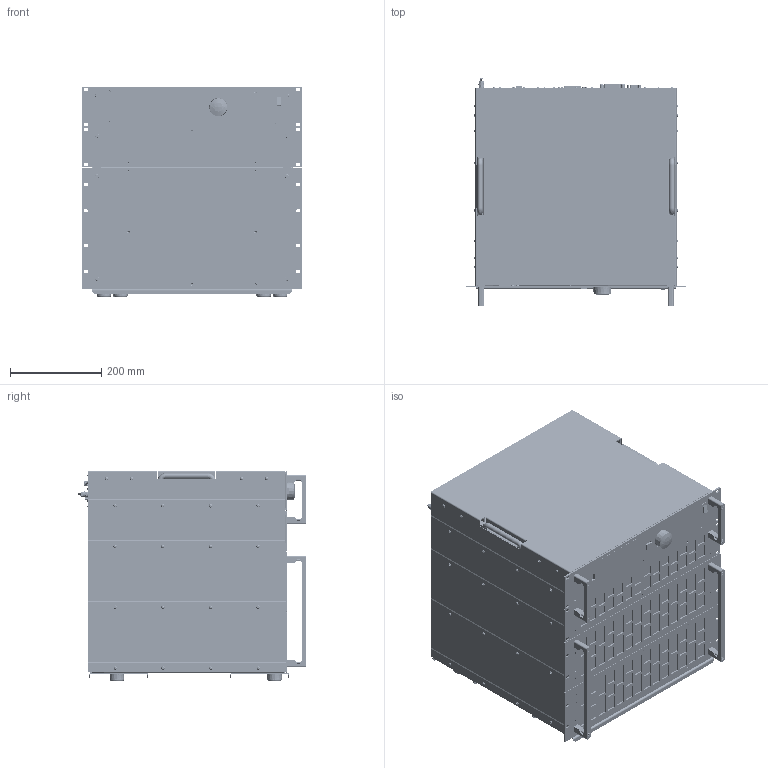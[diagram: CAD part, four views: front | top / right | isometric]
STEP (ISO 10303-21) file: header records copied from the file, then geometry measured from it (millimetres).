
FILE_DESCRIPTION(('STEP AP214'),'1');
FILE_NAME('ACL_M10_19Z_10HE_PH3_10.16_ST76_BRA_3D_02.step','2020-02-20T07:26:54',(' '),(' '),'Spatial InterOp 3D',' ',' ');
FILE_SCHEMA(('AUTOMOTIVE_DESIGN { 1 0 10303 214 1 1 1 1 }'));
Length unit declared in the file: millimetre
Products named in the file (27): *U280; *U281; *U282; *U286; *U287; *U288; 2073_Seitenteil_2HE_3D_01; 2081_Frontplatte_Leistungsteil_2HE_3D_01; 2075_Rückwand_Leistungsteil_2HE_3D_01; 2076_ACL_2HE_Seitenprofil_links_3D_01; 2077_ACL_2HE_Seitenprofil_rechts_3D_01; *U295; *U296; *U297; *U300; *U301; *U302; *U303; *U304; *U305; *U306; *U307; 2078_ACL_IO Panel_02; 2085_ACL_Rückwand_Steuerteil_Single_Phase_mit_Druck_3D_02; *U338; AutoCreatedBlock_2226
Assembly tree (120 placements, depth 2):
  (unnamed)
    *U280  x8
    *U281  x6
    *U282  x8
    *U286  x8
    *U287  x6
    *U288  x8
    2073_Seitenteil_2HE_3D_01  x2
    2081_Frontplatte_Leistungsteil_2HE_3D_01
    2075_Rückwand_Leistungsteil_2HE_3D_01
    2076_ACL_2HE_Seitenprofil_links_3D_01
    2077_ACL_2HE_Seitenprofil_rechts_3D_01
    *U295  x6
    *U296  x8
    *U297  x4
    *U300  x2
    *U301
    *U302  x3
    *U303  x2
    *U304  x2
    *U305  x13
    *U306  x16
    *U307  x6
    2078_ACL_IO Panel_02
    2085_ACL_Rückwand_Steuerteil_Single_Phase_mit_Druck_3D_02
    *U338  x4
    AutoCreatedBlock_2226
Bounding box: 482.61 x 497.65 x 461.84 mm (x, y, z)
Volume: 3326011.6 mm3; surface area: 5034964.2 mm2
Topology: 285 solids, 375 shells, 22427 faces, 55944 edges, 34909 vertices
Faces by surface type: plane 10351, cone 7696, cylinder 3676, sphere 276, torus 211, bspline 190, extrusion 27
Entity records: 702582 total; most frequent: CARTESIAN_POINT 131044, DIRECTION 90161, ORIENTED_EDGE 87550, EDGE_CURVE 43969, VECTOR 30969, LINE 30942, AXIS2_PLACEMENT_3D 29596, VERTEX_POINT 27735
